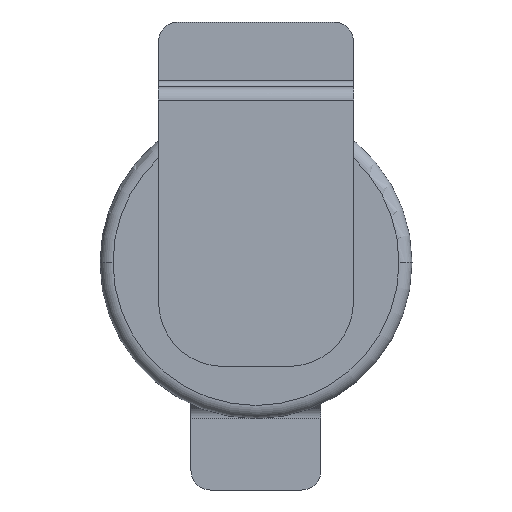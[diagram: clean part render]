
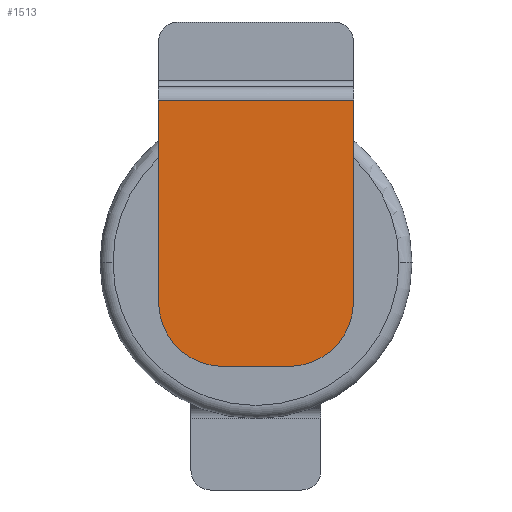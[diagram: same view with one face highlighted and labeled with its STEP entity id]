
A CAD part, front view. The second image highlights one B-rep face of the part: STEP entity #1513.
In plain terms, the highlighted planar face has unit normal (0, -1, 0).
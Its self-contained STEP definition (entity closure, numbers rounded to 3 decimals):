
#14=DIRECTION('',(0.,0.,-1.));
#15=VECTOR('',#14,3.1);
#16=CARTESIAN_POINT('',(-1.5,-0.1,2.5));
#17=LINE('',#16,#15);
#47=DIRECTION('',(-1.,0.,0.));
#48=VECTOR('',#47,3.);
#49=CARTESIAN_POINT('',(1.5,-0.1,2.5));
#50=LINE('',#49,#48);
#528=DIRECTION('',(0.,0.,-1.));
#529=VECTOR('',#528,3.1);
#530=CARTESIAN_POINT('',(1.5,-0.1,2.5));
#531=LINE('',#530,#529);
#536=CARTESIAN_POINT('',(0.5,-0.1,-0.6));
#537=DIRECTION('',(0.,-1.,0.));
#538=DIRECTION('',(0.,0.,-1.));
#539=AXIS2_PLACEMENT_3D('',#536,#537,#538);
#550=DIRECTION('',(1.,0.,0.));
#551=VECTOR('',#550,1.);
#552=CARTESIAN_POINT('',(-0.5,-0.1,-1.6));
#553=LINE('',#552,#551);
#567=CARTESIAN_POINT('',(-0.5,-0.1,-0.6));
#568=DIRECTION('',(0.,-1.,0.));
#569=DIRECTION('',(-1.,0.,0.));
#570=AXIS2_PLACEMENT_3D('',#567,#568,#569);
#588=CARTESIAN_POINT('',(0.5,-0.1,-1.6));
#590=VERTEX_POINT('',#588);
#592=CARTESIAN_POINT('',(1.5,-0.1,-0.6));
#593=VERTEX_POINT('',#592);
#597=CARTESIAN_POINT('',(-0.5,-0.1,-1.6));
#599=VERTEX_POINT('',#597);
#601=CARTESIAN_POINT('',(-1.5,-0.1,-0.6));
#603=VERTEX_POINT('',#601);
#652=CARTESIAN_POINT('',(1.5,-0.1,2.5));
#653=VERTEX_POINT('',#652);
#654=CARTESIAN_POINT('',(-1.5,-0.1,2.5));
#655=VERTEX_POINT('',#654);
#1500=CARTESIAN_POINT('',(-1.5,-0.1,2.7));
#1501=DIRECTION('',(0.,-1.,0.));
#1502=DIRECTION('',(0.,0.,-1.));
#1503=AXIS2_PLACEMENT_3D('',#1500,#1501,#1502);
#1504=PLANE('',#1503);
#1505=ORIENTED_EDGE('',*,*,#802,.F.);
#1506=ORIENTED_EDGE('',*,*,#1454,.T.);
#1507=ORIENTED_EDGE('',*,*,#1466,.F.);
#1508=ORIENTED_EDGE('',*,*,#1482,.F.);
#1509=ORIENTED_EDGE('',*,*,#1495,.F.);
#1510=ORIENTED_EDGE('',*,*,#767,.F.);
#1511=EDGE_LOOP('',(#1505,#1506,#1507,#1508,#1509,#1510));
#1512=FACE_OUTER_BOUND('',#1511,.F.);
#1513=ADVANCED_FACE('',(#1512),#1504,.T.);
#540=CIRCLE('',#539,1.);
#571=CIRCLE('',#570,1.);
#767=EDGE_CURVE('',#655,#603,#17,.T.);
#802=EDGE_CURVE('',#653,#655,#50,.T.);
#1454=EDGE_CURVE('',#653,#593,#531,.T.);
#1466=EDGE_CURVE('',#590,#593,#540,.T.);
#1482=EDGE_CURVE('',#599,#590,#553,.T.);
#1495=EDGE_CURVE('',#603,#599,#571,.T.);
